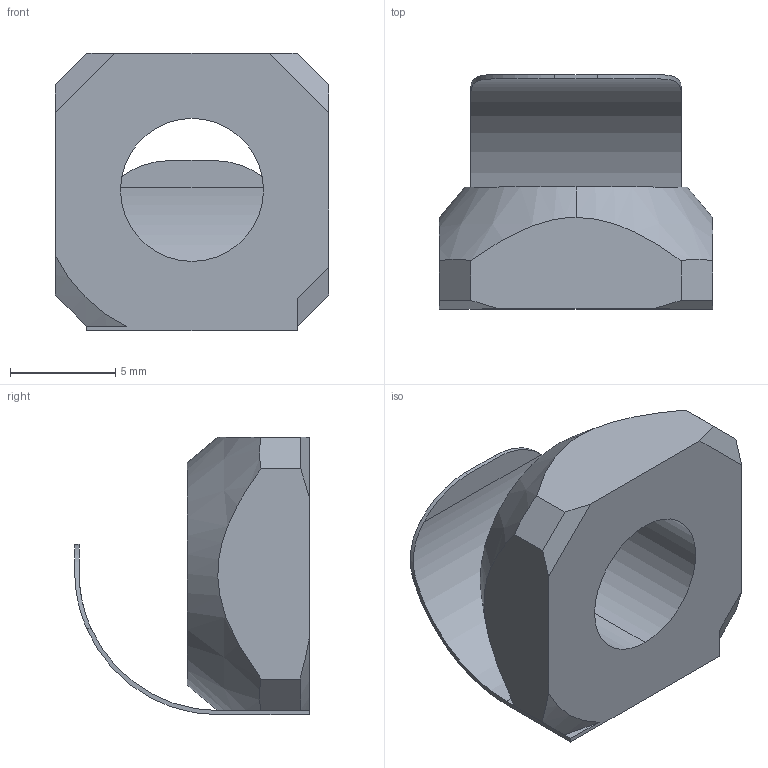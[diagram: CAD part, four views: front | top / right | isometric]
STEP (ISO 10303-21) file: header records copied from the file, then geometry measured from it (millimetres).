
FILE_DESCRIPTION (( 'STEP AP214' ), '1' );
FILE_NAME ('1.2014 Neliömutteri M8 kiinnityslevyllä.STEP', '2025-09-05T10:27:24', ( '' ), ( '' ), 'SwSTEP 2.0', 'SolidWorks 2025', '' );
FILE_SCHEMA (( 'AUTOMOTIVE_DESIGN' ));
Length unit declared in the file: millimetre
Products named in the file (1): 1.2014 Neliömutteri M8 kiinnityslevyllä
Bounding box: 13 x 11.15 x 13.2 mm (x, y, z)
Volume: 663.4 mm3; surface area: 824.9 mm2
Topology: 1 solids, 1 shells, 33 faces, 86 edges, 55 vertices
Faces by surface type: plane 22, cylinder 6, cone 5
Entity records: 1131 total; most frequent: CARTESIAN_POINT 316, ORIENTED_EDGE 172, DIRECTION 152, EDGE_CURVE 86, VERTEX_POINT 55, AXIS2_PLACEMENT_3D 51, LINE 50, VECTOR 50
